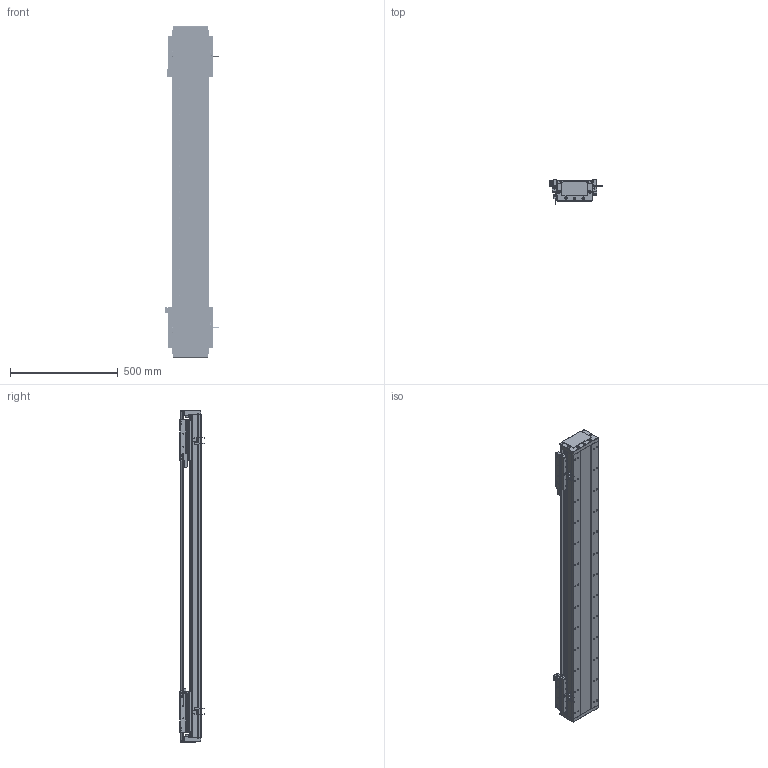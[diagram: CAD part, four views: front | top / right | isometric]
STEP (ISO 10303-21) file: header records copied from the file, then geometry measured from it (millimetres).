
FILE_DESCRIPTION (( 'STEP AP203' ), '1' );
FILE_NAME ('DA-C165-2-C2-T1040-C010-0.2 直线电机.STEP', '2023-05-11T08:19:46', ( '微软用户' ), ( '微软中国' ), 'SwSTEP 2.0', 'SolidWorks 2019', '' );
FILE_SCHEMA (( 'CONFIG_CONTROL_DESIGN' ));
Length unit declared in the file: millimetre
Products named in the file (19): 复件 DA165-DG-H-N-00 端盖^DA-C165-C2-T-C010-0.2-N 直线电机; 复件 DA165-T-002-00 盖板^DA-C165-C2-T-C010-0.2-N 直线电机_0840-002-00; 复件 DA126-GYP-ZJ-00 中间光电感应片^DA-C165-C2-T-C010-0.2-N 直线电机; 珨极趙賑雄怢啣wf-C2; IU-CU165-L 菁釱絳寢; 葩璃 PM-T45^DA-C165-C2-T-C010-0.2-N 眻盄萇儂; 复件 CKM02-W075-C1C2-TP-3.0 一体电机-C2^DA-C165-C2-T-C010-0.2-N 直线电机; 葩璃 DA95-GT-T-00^IU-CU165-L 菁釱絳寢_T; DA-C165-2-C2-T1040-C010-0.2 眻盄萇儂; 复件 六角薄螺母 M3^DA-C165-C2-T-C010-0.2-N 直线电机_GB_FASTENER_NUT_STNAB M3-C; 复件 DKW-HXJ-JY-00 缓冲橡胶^DA-C165-C2-T-C010-0.2-N 直线电机; 葩璃 CKM01-W075-TRL^DA-C165-C2-T-C010-0.2-N 眻盄萇儂; 葩璃 PM-Y45^DA-C165-C2-T-C010-0.2-N 眻盄萇儂; 复件 66338-1000-006-00 光电感应块^DA-C165-C2-T-C010-0.2-N 直线电机; 复件 DA95-HXJ-00 缓冲橡胶^DA-C165-C2-T-C010-0.2-N 直线电机; IU-CU165-L-00 菁釱_L1500; 复件 XD-U-02L 磁栅尺^DA-C165-C2-T-C010-0.2-N 直线电机_T; 复件 DMA-010-0.2 读数头^DA-C165-C2-T-C010-0.2-N 直线电机; 复件 DA165-GYP-00 光电感应片^DA-C165-C2-T-C010-0.2-N 直线电机
Assembly tree (38 placements, depth 3):
  DA-C165-2-C2-T1040-C010-0.2 眻盄萇儂
    IU-CU165-L 菁釱絳寢
      IU-CU165-L-00 菁釱_L1500
      葩璃 DA95-GT-T-00^IU-CU165-L 菁釱絳寢_T  x4
    复件 DA165-DG-H-N-00 端盖^DA-C165-C2-T-C010-0.2-N 直线电机  x2
    复件 DA95-HXJ-00 缓冲橡胶^DA-C165-C2-T-C010-0.2-N 直线电机  x4
    复件 DA165-T-002-00 盖板^DA-C165-C2-T-C010-0.2-N 直线电机_0840-002-00
    复件 XD-U-02L 磁栅尺^DA-C165-C2-T-C010-0.2-N 直线电机_T
    葩璃 PM-T45^DA-C165-C2-T-C010-0.2-N 眻盄萇儂  x4
    葩璃 CKM01-W075-TRL^DA-C165-C2-T-C010-0.2-N 眻盄萇儂
    复件 CKM02-W075-C1C2-TP-3.0 一体电机-C2^DA-C165-C2-T-C010-0.2-N 直线电机  x2
    复件 DMA-010-0.2 读数头^DA-C165-C2-T-C010-0.2-N 直线电机  x2
    复件 DA165-GYP-00 光电感应片^DA-C165-C2-T-C010-0.2-N 直线电机  x2
    复件 66338-1000-006-00 光电感应块^DA-C165-C2-T-C010-0.2-N 直线电机
    葩璃 PM-Y45^DA-C165-C2-T-C010-0.2-N 眻盄萇儂
    复件 DA126-GYP-ZJ-00 中间光电感应片^DA-C165-C2-T-C010-0.2-N 直线电机
    复件 DKW-HXJ-JY-00 缓冲橡胶^DA-C165-C2-T-C010-0.2-N 直线电机  x2
    复件 六角薄螺母 M3^DA-C165-C2-T-C010-0.2-N 直线电机_GB_FASTENER_NUT_STNAB M3-C  x6
    珨极趙賑雄怢啣wf-C2  x2
Bounding box: 247.2 x 111.45 x 1540 mm (x, y, z)
Volume: 11977932.7 mm3; surface area: 3221675.2 mm2
Topology: 115 solids, 115 shells, 5092 faces, 13835 edges, 8650 vertices
Faces by surface type: cylinder 2534, plane 1782, cone 680, torus 88, sphere 8
Entity records: 109964 total; most frequent: CARTESIAN_POINT 26884, ORIENTED_EDGE 16916, DIRECTION 16871, EDGE_CURVE 8458, AXIS2_PLACEMENT_3D 6318, VERTEX_POINT 5487, LINE 4235, VECTOR 4235
